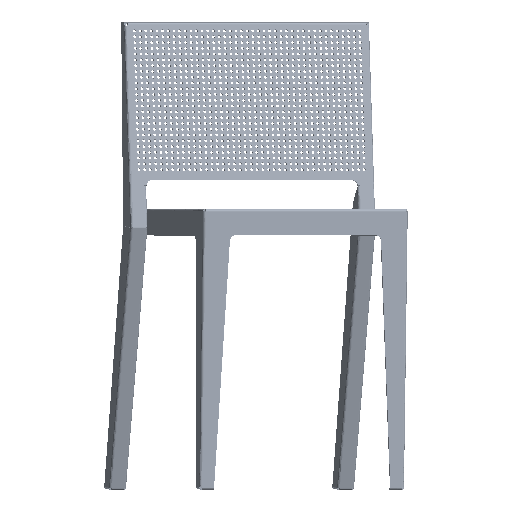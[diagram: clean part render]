
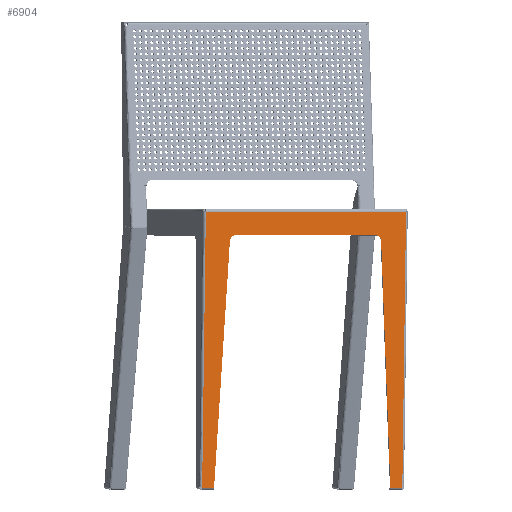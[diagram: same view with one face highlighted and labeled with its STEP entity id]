
A CAD part, front view. The second image highlights one B-rep face of the part: STEP entity #6904.
In plain terms, the highlighted planar face has unit normal (0.256, -0.965, -0.052).
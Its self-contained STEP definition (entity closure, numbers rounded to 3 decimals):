
#6904=ADVANCED_FACE($,(#11767),#89646,.T.);
#11767=FACE_OUTER_BOUND($,#21200,.T.);
#21200=EDGE_LOOP($,(#46428,#46429,#46430,#46431,#46432,#46433,#46434,#46435,
#46436,#46437));
#46428=ORIENTED_EDGE($,*,*,#70626,.T.);
#46429=ORIENTED_EDGE($,*,*,#65453,.F.);
#46430=ORIENTED_EDGE($,*,*,#65487,.F.);
#46431=ORIENTED_EDGE($,*,*,#70627,.T.);
#46432=ORIENTED_EDGE($,*,*,#70628,.T.);
#46433=ORIENTED_EDGE($,*,*,#68041,.F.);
#46434=ORIENTED_EDGE($,*,*,#70629,.T.);
#46435=ORIENTED_EDGE($,*,*,#70617,.T.);
#46436=ORIENTED_EDGE($,*,*,#70630,.T.);
#46437=ORIENTED_EDGE($,*,*,#65393,.T.);
#65393=EDGE_CURVE($,#79630,#79631,#95889,.T.);
#65453=EDGE_CURVE($,#79682,#79683,#103512,.T.);
#65487=EDGE_CURVE($,#79701,#79682,#103535,.T.);
#68041=EDGE_CURVE($,#82241,#82242,#103561,.T.);
#70617=EDGE_CURVE($,#84786,#84787,#100979,.T.);
#70626=EDGE_CURVE($,#79631,#79683,#103610,.T.);
#70627=EDGE_CURVE($,#79701,#82250,#103611,.T.);
#70628=EDGE_CURVE($,#82250,#82242,#103612,.T.);
#70629=EDGE_CURVE($,#82241,#84786,#103613,.T.);
#70630=EDGE_CURVE($,#84787,#79630,#103614,.T.);
#79630=VERTEX_POINT($,#219175);
#79631=VERTEX_POINT($,#219176);
#79682=VERTEX_POINT($,#219227);
#79683=VERTEX_POINT($,#219228);
#79701=VERTEX_POINT($,#219246);
#82241=VERTEX_POINT($,#221786);
#82242=VERTEX_POINT($,#221787);
#82250=VERTEX_POINT($,#221795);
#84786=VERTEX_POINT($,#224331);
#84787=VERTEX_POINT($,#224332);
#89646=PLANE($,#106511);
#95889=(
BOUNDED_CURVE()
B_SPLINE_CURVE(2,(#162512,#162513,#162514),.UNSPECIFIED.,.F.,.F.)
B_SPLINE_CURVE_WITH_KNOTS((3,3),(-15.184,0.),.UNSPECIFIED.)
CURVE()
GEOMETRIC_REPRESENTATION_ITEM()
RATIONAL_B_SPLINE_CURVE((1.,0.725,1.))
REPRESENTATION_ITEM($)
);
#100979=(
BOUNDED_CURVE()
B_SPLINE_CURVE(2,(#188268,#188269,#188270),.UNSPECIFIED.,.F.,.F.)
B_SPLINE_CURVE_WITH_KNOTS((3,3),(-15.184,0.),.UNSPECIFIED.)
CURVE()
GEOMETRIC_REPRESENTATION_ITEM()
RATIONAL_B_SPLINE_CURVE((1.,0.725,1.))
REPRESENTATION_ITEM($)
);
#103512=B_SPLINE_CURVE_WITH_KNOTS($,1,(#162695,#162696),.UNSPECIFIED.,.F.,
.F.,(2,2),(-21.21,0.),.UNSPECIFIED.);
#103535=B_SPLINE_CURVE_WITH_KNOTS($,1,(#162790,#162791),.UNSPECIFIED.,.F.,
.F.,(2,2),(-474.385,0.),.UNSPECIFIED.);
#103561=B_SPLINE_CURVE_WITH_KNOTS($,1,(#175470,#175471),.UNSPECIFIED.,.F.,
.F.,(2,2),(-21.21,0.),.UNSPECIFIED.);
#103610=B_SPLINE_CURVE_WITH_KNOTS($,1,(#188294,#188295),.UNSPECIFIED.,.F.,
.F.,(2,2),(0.,424.697),.UNSPECIFIED.);
#103611=B_SPLINE_CURVE_WITH_KNOTS($,1,(#188296,#188297),.UNSPECIFIED.,.F.,
.F.,(2,2),(0.,355.44),.UNSPECIFIED.);
#103612=B_SPLINE_CURVE_WITH_KNOTS($,1,(#188298,#188299),.UNSPECIFIED.,.F.,
.F.,(2,2),(0.,474.385),.UNSPECIFIED.);
#103613=B_SPLINE_CURVE_WITH_KNOTS($,1,(#188300,#188301),.UNSPECIFIED.,.F.,
.F.,(2,2),(0.,424.697),.UNSPECIFIED.);
#103614=B_SPLINE_CURVE_WITH_KNOTS($,1,(#188302,#188303),.UNSPECIFIED.,.F.,
.F.,(2,2),(0.,248.594),.UNSPECIFIED.);
#106511=AXIS2_PLACEMENT_3D($,#193816,#106693,$);
#106693=DIRECTION($,(0.256,-0.965,-0.052));
#162512=CARTESIAN_POINT($,(901.644,766.086,-41.947));
#162513=CARTESIAN_POINT($,(910.818,768.514,-41.947));
#162514=CARTESIAN_POINT($,(911.171,769.121,-51.41));
#162695=CARTESIAN_POINT($,(947.481,801.694,-474.944));
#162696=CARTESIAN_POINT($,(926.978,796.266,-474.944));
#162790=CARTESIAN_POINT($,(953.834,777.693,-1.209));
#162791=CARTESIAN_POINT($,(947.481,801.694,-474.944));
#175470=CARTESIAN_POINT($,(624.379,716.166,-474.944));
#175471=CARTESIAN_POINT($,(603.876,710.739,-474.944));
#188268=CARTESIAN_POINT($,(651.546,700.397,-51.41));
#188269=CARTESIAN_POINT($,(652.153,700.044,-41.947));
#188270=CARTESIAN_POINT($,(661.327,702.473,-41.947));
#188294=CARTESIAN_POINT($,(911.171,769.121,-51.41));
#188295=CARTESIAN_POINT($,(926.978,796.266,-474.944));
#188296=CARTESIAN_POINT($,(953.834,777.693,-1.209));
#188297=CARTESIAN_POINT($,(610.229,686.738,-1.209));
#188298=CARTESIAN_POINT($,(610.229,686.738,-1.209));
#188299=CARTESIAN_POINT($,(603.876,710.739,-474.944));
#188300=CARTESIAN_POINT($,(624.379,716.166,-474.944));
#188301=CARTESIAN_POINT($,(651.546,700.397,-51.41));
#188302=CARTESIAN_POINT($,(661.327,702.473,-41.947));
#188303=CARTESIAN_POINT($,(901.644,766.086,-41.947));
#193816=CARTESIAN_POINT($,(610.229,686.738,-1.209));
#219175=CARTESIAN_POINT($,(901.644,766.086,-41.947));
#219176=CARTESIAN_POINT($,(911.171,769.121,-51.41));
#219227=CARTESIAN_POINT($,(947.481,801.694,-474.944));
#219228=CARTESIAN_POINT($,(926.978,796.266,-474.944));
#219246=CARTESIAN_POINT($,(953.834,777.693,-1.209));
#221786=CARTESIAN_POINT($,(624.379,716.166,-474.944));
#221787=CARTESIAN_POINT($,(603.876,710.739,-474.944));
#221795=CARTESIAN_POINT($,(610.229,686.738,-1.209));
#224331=CARTESIAN_POINT($,(651.546,700.397,-51.41));
#224332=CARTESIAN_POINT($,(661.327,702.473,-41.947));
